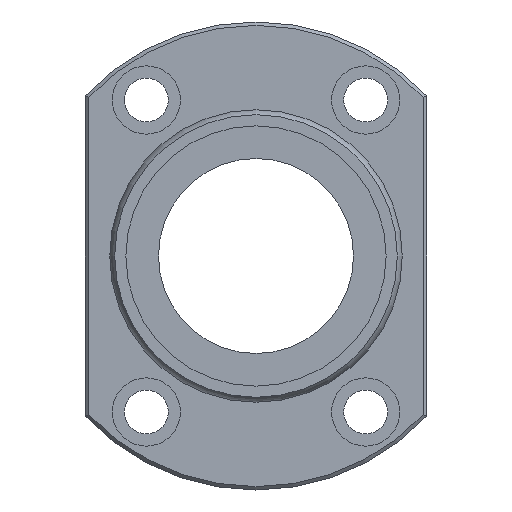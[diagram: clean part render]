
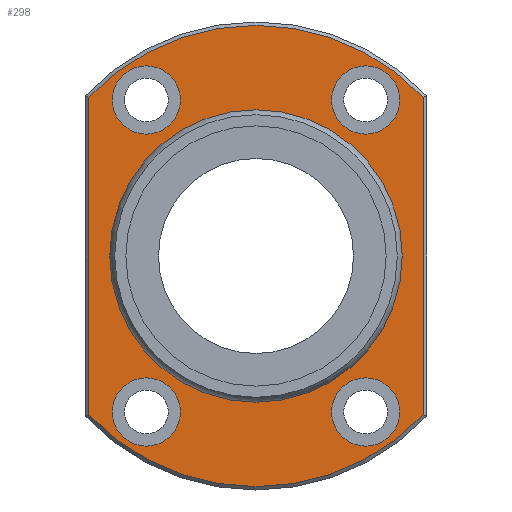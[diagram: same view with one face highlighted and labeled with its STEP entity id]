
A CAD part, left-side view. The second image highlights one B-rep face of the part: STEP entity #298.
In plain terms, the highlighted planar face has unit normal (-1, 0, 0).
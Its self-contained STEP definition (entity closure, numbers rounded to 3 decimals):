
#59=CARTESIAN_POINT('',(77.,-34.3,32.57));
#60=VERTEX_POINT('',#59);
#68=CARTESIAN_POINT('',(77.,-34.3,-32.57));
#69=VERTEX_POINT('',#68);
#70=CARTESIAN_POINT('',(77.,-34.3,32.57));
#71=DIRECTION('',(0.0,0.0,-1.0));
#72=VECTOR('',#71,65.14);
#73=LINE('',#70,#72);
#74=EDGE_CURVE('',#60,#69,#73,.T.);
#101=CARTESIAN_POINT('',(77.,34.3,-32.57));
#102=VERTEX_POINT('',#101);
#103=CARTESIAN_POINT('',(77.,0.0,0.0));
#104=DIRECTION('',(1.0,0.0,0.0));
#105=DIRECTION('',(0.0,0.0,-1.0));
#106=AXIS2_PLACEMENT_3D('',#103,#104,#105);
#107=CIRCLE('',#106,47.3);
#108=EDGE_CURVE('',#69,#102,#107,.T.);
#134=CARTESIAN_POINT('',(77.,34.3,32.57));
#135=VERTEX_POINT('',#134);
#136=CARTESIAN_POINT('',(77.,34.3,-32.57));
#137=DIRECTION('',(0.0,0.0,1.0));
#138=VECTOR('',#137,65.14);
#139=LINE('',#136,#138);
#140=EDGE_CURVE('',#102,#135,#139,.T.);
#165=CARTESIAN_POINT('',(77.,0.0,0.0));
#166=DIRECTION('',(1.0,0.0,0.0));
#167=DIRECTION('',(0.0,0.0,1.0));
#168=AXIS2_PLACEMENT_3D('',#165,#166,#167);
#169=CIRCLE('',#168,47.3);
#170=EDGE_CURVE('',#135,#60,#169,.T.);
#232=CARTESIAN_POINT('',(77.,0.0,38.834));
#233=DIRECTION('',(-1.0,0.0,0.0));
#234=DIRECTION('',(0.0,0.0,1.0));
#235=AXIS2_PLACEMENT_3D('',#232,#233,#234);
#236=PLANE('',#235);
#237=ORIENTED_EDGE('',*,*,#74,.F.);
#238=ORIENTED_EDGE('',*,*,#170,.F.);
#239=ORIENTED_EDGE('',*,*,#140,.F.);
#240=ORIENTED_EDGE('',*,*,#108,.F.);
#241=EDGE_LOOP('',(#237,#238,#239,#240));
#242=FACE_OUTER_BOUND('',#241,.T.);
#243=CARTESIAN_POINT('',(77.0,0.0,29.668));
#244=VERTEX_POINT('',#243);
#245=CARTESIAN_POINT('',(77.0,0.0,0.0));
#246=DIRECTION('',(-1.0,0.0,0.0));
#247=DIRECTION('',(0.0,0.0,1.0));
#248=AXIS2_PLACEMENT_3D('',#245,#246,#247);
#249=CIRCLE('',#248,29.668);
#250=EDGE_CURVE('',#244,#244,#249,.T.);
#251=ORIENTED_EDGE('',*,*,#250,.F.);
#252=EDGE_LOOP('',(#251));
#253=FACE_BOUND('',#252,.T.);
#254=CARTESIAN_POINT('',(77.0,-15.5,-32.0));
#255=VERTEX_POINT('',#254);
#256=CARTESIAN_POINT('',(77.,-22.5,-32.0));
#257=DIRECTION('',(1.0,0.0,0.0));
#258=DIRECTION('',(0.0,1.0,0.0));
#259=AXIS2_PLACEMENT_3D('',#256,#257,#258);
#260=CIRCLE('',#259,7.);
#261=EDGE_CURVE('',#255,#255,#260,.T.);
#262=ORIENTED_EDGE('',*,*,#261,.T.);
#263=EDGE_LOOP('',(#262));
#264=FACE_BOUND('',#263,.T.);
#265=CARTESIAN_POINT('',(77.0,-15.5,32.0));
#266=VERTEX_POINT('',#265);
#267=CARTESIAN_POINT('',(77.,-22.5,32.0));
#268=DIRECTION('',(1.0,0.0,0.0));
#269=DIRECTION('',(0.0,1.0,0.0));
#270=AXIS2_PLACEMENT_3D('',#267,#268,#269);
#271=CIRCLE('',#270,7.);
#272=EDGE_CURVE('',#266,#266,#271,.T.);
#273=ORIENTED_EDGE('',*,*,#272,.T.);
#274=EDGE_LOOP('',(#273));
#275=FACE_BOUND('',#274,.T.);
#276=CARTESIAN_POINT('',(77.0,29.5,-32.0));
#277=VERTEX_POINT('',#276);
#278=CARTESIAN_POINT('',(77.,22.5,-32.0));
#279=DIRECTION('',(1.0,0.0,0.0));
#280=DIRECTION('',(0.0,1.0,0.0));
#281=AXIS2_PLACEMENT_3D('',#278,#279,#280);
#282=CIRCLE('',#281,7.);
#283=EDGE_CURVE('',#277,#277,#282,.T.);
#284=ORIENTED_EDGE('',*,*,#283,.T.);
#285=EDGE_LOOP('',(#284));
#286=FACE_BOUND('',#285,.T.);
#287=CARTESIAN_POINT('',(77.0,29.5,32.0));
#288=VERTEX_POINT('',#287);
#289=CARTESIAN_POINT('',(77.,22.5,32.0));
#290=DIRECTION('',(1.0,0.0,0.0));
#291=DIRECTION('',(0.0,1.0,0.0));
#292=AXIS2_PLACEMENT_3D('',#289,#290,#291);
#293=CIRCLE('',#292,7.);
#294=EDGE_CURVE('',#288,#288,#293,.T.);
#295=ORIENTED_EDGE('',*,*,#294,.T.);
#296=EDGE_LOOP('',(#295));
#297=FACE_BOUND('',#296,.T.);
#298=ADVANCED_FACE('',(#242,#253,#264,#275,#286,#297),#236,.T.);
